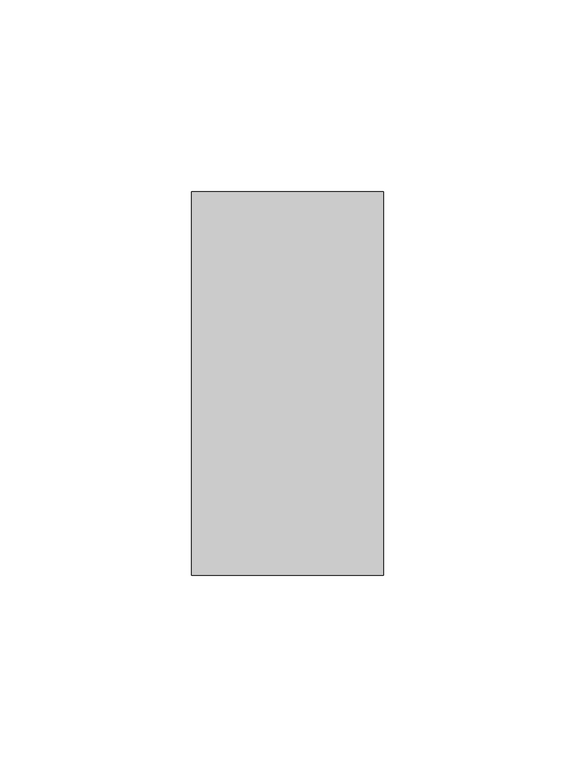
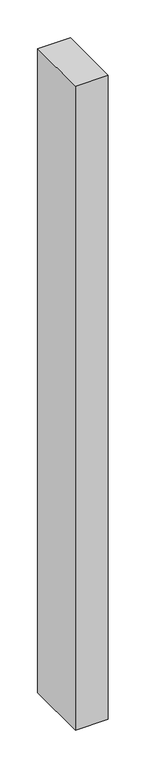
"""IFC4 building model written with IfcOpenShell, lengths in millimetres: member geometry, Прямоугольный импост : 50х100."""

from ifc_helpers import new_model, si_unit, frame, origin, place, context, project, spatial, polyline, outline, extrude, source, transform, mapped, element, save


def member_33beeda5(model_context):
    return source(origin(), model_context, "Body", "SweptSolid", [
        extrude(outline(polyline([(0.0, 50.0), (0.0, -50.0), (-50.0, -50.0), (-50.0, 50.0), (0.0, 50.0)])), frame((0.0, 0.0, -1040.0), z_axis=(0.0, 0.0, 1.0), x_axis=(1.0, 0.0, 0.0)), (0.0, 0.0, 1.0), 1040.0),
    ])


if __name__ == "__main__":
    model = new_model("IFC4")
    model_context = context("Model", 3, world=origin())
    ifc_project = project(units=[si_unit("LENGTHUNIT", "METRE", prefix="MILLI")], contexts=[model_context])
    site = spatial("IfcSite", under=ifc_project)
    building = spatial("IfcBuilding", under=site)
    placement = place(None, origin())
    member_shape = member_33beeda5(model_context)
    element("IfcMember", 1, ObjectType="Прямоугольный импост : 50х100", at=placement, inside=building, context=model_context, shape_type="MappedRepresentation", body=[
        mapped(member_shape, transform((0.0, 0.0, 0.0), x_axis=(1.0, 0.0, 0.0), y_axis=(0.0, 1.0, 0.0), z_axis=(0.0, 0.0, 1.0))),
    ])
    save(model, "model.ifc")
